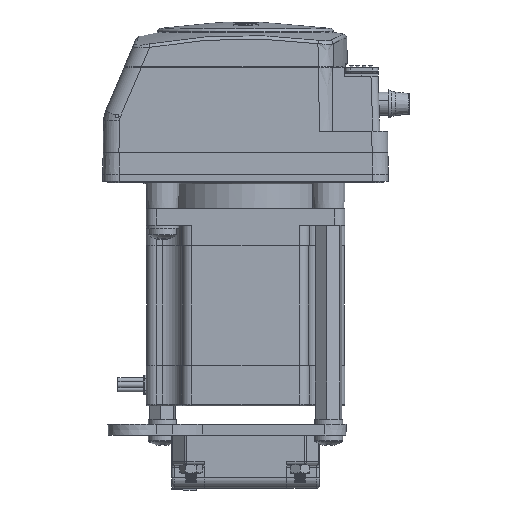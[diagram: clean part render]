
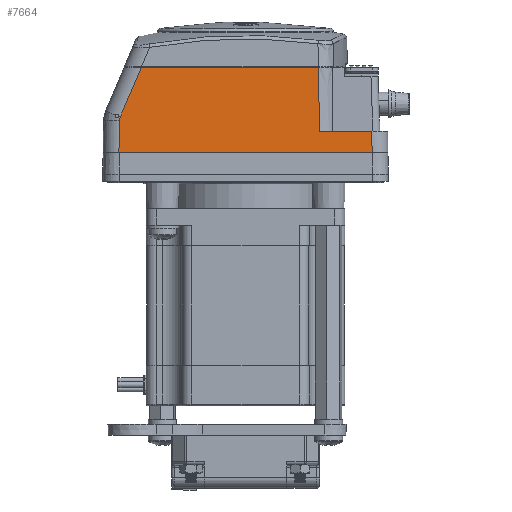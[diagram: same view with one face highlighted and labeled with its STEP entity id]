
A CAD part, left-side view. The second image highlights one B-rep face of the part: STEP entity #7664.
In plain terms, the highlighted planar face has unit normal (-1, 0, 0.018).
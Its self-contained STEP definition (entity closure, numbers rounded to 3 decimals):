
#2156 = EDGE_CURVE ( 'NONE', #33192, #68184, #23755, .T. ) ;
#2315 = ORIENTED_EDGE ( 'NONE', *, *, #41421, .T. ) ;
#3238 = DIRECTION ( 'NONE',  ( 0.017, 0., 1. ) ) ;
#3477 = VECTOR ( 'NONE', #42655, 1000. ) ;
#4627 = CARTESIAN_POINT ( 'NONE',  ( -31.422, 0., 8.95 ) ) ;
#5872 = DIRECTION ( 'NONE',  ( -0.017, 0.017, -1. ) ) ;
#6271 = LINE ( 'NONE', #17233, #10957 ) ;
#6761 = CARTESIAN_POINT ( 'NONE',  ( -31.16, -20.84, 24.009 ) ) ;
#7240 = CARTESIAN_POINT ( 'NONE',  ( -31.258, 35.759, 18.358 ) ) ;
#7664 = ADVANCED_FACE ( 'NONE', ( #57369 ), #75280, .T. ) ;
#10036 =( BOUNDED_CURVE ( )  B_SPLINE_CURVE ( 3, ( #66453, #25567, #7240, #48177 ),
 .UNSPECIFIED., .F., .T. ) 
 B_SPLINE_CURVE_WITH_KNOTS ( ( 4, 4 ),
 ( 4.311, 4.695 ),
 .UNSPECIFIED. ) 
 CURVE ( )  GEOMETRIC_REPRESENTATION_ITEM ( )  RATIONAL_B_SPLINE_CURVE ( ( 1., 0.988, 0.988, 1. ) ) 
 REPRESENTATION_ITEM ( '' )  );
#10481 = LINE ( 'NONE', #4627, #32981 ) ;
#10541 = CARTESIAN_POINT ( 'NONE',  ( -31., -20.748, 33.15 ) ) ;
#10957 = VECTOR ( 'NONE', #30060, 1000. ) ;
#12787 = VERTEX_POINT ( 'NONE', #32437 ) ;
#13011 = CARTESIAN_POINT ( 'NONE',  ( -31.106, -20.808, 27.056 ) ) ;
#14726 = ORIENTED_EDGE ( 'NONE', *, *, #59492, .T. ) ;
#16895 = AXIS2_PLACEMENT_3D ( 'NONE', #32470, #56616, #3238 ) ;
#17233 = CARTESIAN_POINT ( 'NONE',  ( -30.989, -35.49, 33.769 ) ) ;
#17305 = VERTEX_POINT ( 'NONE', #26602 ) ;
#18915 = EDGE_CURVE ( 'NONE', #45837, #75403, #51357, .T. ) ;
#19278 = VECTOR ( 'NONE', #46763, 1000. ) ;
#20086 = B_SPLINE_CURVE_WITH_KNOTS ( 'NONE', 3,
 ( #71043, #42227, #66366, #6761, #13011, #24711, #36799 ),
 .UNSPECIFIED., .F., .F.,
 ( 4, 3, 4 ),
 ( 0., 0.009, 0.018 ),
 .UNSPECIFIED. ) ;
#20291 = VERTEX_POINT ( 'NONE', #10541 ) ;
#21744 = DIRECTION ( 'NONE',  ( -0.016, 0.391, -0.92 ) ) ;
#22566 = DIRECTION ( 'NONE',  ( 0., -1., 0. ) ) ;
#23755 = LINE ( 'NONE', #69732, #19278 ) ;
#24592 = EDGE_CURVE ( 'NONE', #70038, #12787, #35517, .T. ) ;
#24711 = CARTESIAN_POINT ( 'NONE',  ( -31.053, -20.777, 30.103 ) ) ;
#24766 = LINE ( 'NONE', #53968, #3477 ) ;
#25567 = CARTESIAN_POINT ( 'NONE',  ( -31.253, 35.692, 18.673 ) ) ;
#26602 = CARTESIAN_POINT ( 'NONE',  ( -31.422, -35.923, 8.95 ) ) ;
#27437 = ORIENTED_EDGE ( 'NONE', *, *, #59124, .T. ) ;
#28169 = ORIENTED_EDGE ( 'NONE', *, *, #71289, .T. ) ;
#28312 = ORIENTED_EDGE ( 'NONE', *, *, #46370, .T. ) ;
#30060 = DIRECTION ( 'NONE',  ( 0.017, 0.017, 1. ) ) ;
#30111 = VECTOR ( 'NONE', #5872, 1000. ) ;
#31680 = CARTESIAN_POINT ( 'NONE',  ( -31., 29.547, 33.15 ) ) ;
#32437 = CARTESIAN_POINT ( 'NONE',  ( -31.422, 35.923, 8.95 ) ) ;
#32470 = CARTESIAN_POINT ( 'NONE',  ( -31., 0., 33.15 ) ) ;
#32981 = VECTOR ( 'NONE', #22566, 1000. ) ;
#33192 = VERTEX_POINT ( 'NONE', #70767 ) ;
#35517 = LINE ( 'NONE', #59264, #30111 ) ;
#36799 = CARTESIAN_POINT ( 'NONE',  ( -31., -20.748, 33.15 ) ) ;
#38971 = ORIENTED_EDGE ( 'NONE', *, *, #18915, .T. ) ;
#40662 = EDGE_LOOP ( 'NONE', ( #60417, #27437, #28169, #38971, #28312, #54119, #2315, #14726 ) ) ;
#41421 = EDGE_CURVE ( 'NONE', #12787, #17305, #10481, .T. ) ;
#42227 = CARTESIAN_POINT ( 'NONE',  ( -31.265, -20.904, 17.97 ) ) ;
#42655 = DIRECTION ( 'NONE',  ( 0., 1., 0. ) ) ;
#44751 = CARTESIAN_POINT ( 'NONE',  ( -31.249, 35.594, 18.903 ) ) ;
#45837 = VERTEX_POINT ( 'NONE', #31680 ) ;
#46370 = EDGE_CURVE ( 'NONE', #75403, #70038, #10036, .T. ) ;
#46763 = DIRECTION ( 'NONE',  ( 0., 1., 0. ) ) ;
#48177 = CARTESIAN_POINT ( 'NONE',  ( -31.264, 35.765, 18.036 ) ) ;
#50569 = VECTOR ( 'NONE', #21744, 1000. ) ;
#51357 = LINE ( 'NONE', #44751, #50569 ) ;
#53968 = CARTESIAN_POINT ( 'NONE',  ( -31., 0., 33.15 ) ) ;
#54119 = ORIENTED_EDGE ( 'NONE', *, *, #24592, .T. ) ;
#56616 = DIRECTION ( 'NONE',  ( -1., 0., 0.017 ) ) ;
#56775 = CARTESIAN_POINT ( 'NONE',  ( -31.318, -20.937, 14.95 ) ) ;
#57369 = FACE_OUTER_BOUND ( 'NONE', #40662, .T. ) ;
#59124 = EDGE_CURVE ( 'NONE', #68184, #20291, #20086, .T. ) ;
#59264 = CARTESIAN_POINT ( 'NONE',  ( -30.989, 35.49, 33.769 ) ) ;
#59492 = EDGE_CURVE ( 'NONE', #17305, #33192, #6271, .T. ) ;
#60417 = ORIENTED_EDGE ( 'NONE', *, *, #2156, .T. ) ;
#66366 = CARTESIAN_POINT ( 'NONE',  ( -31.212, -20.871, 20.989 ) ) ;
#66453 = CARTESIAN_POINT ( 'NONE',  ( -31.248, 35.566, 18.969 ) ) ;
#68184 = VERTEX_POINT ( 'NONE', #56775 ) ;
#68409 = CARTESIAN_POINT ( 'NONE',  ( -31.264, 35.765, 18.036 ) ) ;
#69732 = CARTESIAN_POINT ( 'NONE',  ( -31.318, 0., 14.95 ) ) ;
#70038 = VERTEX_POINT ( 'NONE', #68409 ) ;
#70412 = CARTESIAN_POINT ( 'NONE',  ( -31.248, 35.566, 18.969 ) ) ;
#70767 = CARTESIAN_POINT ( 'NONE',  ( -31.318, -35.818, 14.95 ) ) ;
#71043 = CARTESIAN_POINT ( 'NONE',  ( -31.318, -20.937, 14.95 ) ) ;
#71289 = EDGE_CURVE ( 'NONE', #20291, #45837, #24766, .T. ) ;
#75280 = PLANE ( 'NONE',  #16895 ) ;
#75403 = VERTEX_POINT ( 'NONE', #70412 ) ;
